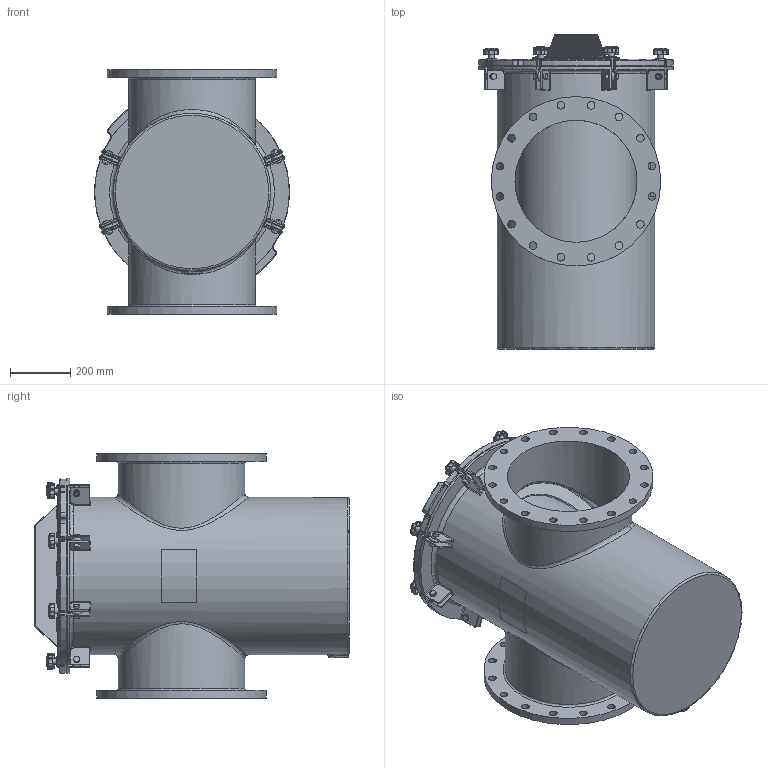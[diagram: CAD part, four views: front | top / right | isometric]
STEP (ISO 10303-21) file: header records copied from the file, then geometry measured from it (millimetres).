
FILE_DESCRIPTION(/* description */ ('STRAINER BODY'),/* implementation_level */ '2;1');
FILE_NAME(/* name */ '\\chntshnas1\IP_PUMPS\NeptuneBenson\Project Execution\WIP\Ready for delivery - Do not Disturb -Updated with metric Flange\Workspace\FG Straight Strainer\150NBFG16X16-MM.stp',/* time_stamp */ '2016-10-18T19:45:13+05:00',/* author */ ('20076253'),/* organization */ (''),/* preprocessor_version */ 'ST-DEVELOPER v16.1',/* originating_system */ 'Autodesk Inventor 2016',/* authorisation */ '');
FILE_SCHEMA (('AUTOMOTIVE_DESIGN { 1 0 10303 214 3 1 1 }'));
Length unit declared in the file: inch
Products named in the file (24): NBFGBODY16X16MM; 150NBCVR22R2; 150NBGSK20R1; Perforated Basket 20in; Bride (Ring) 20in; Baffle 20in; Handle 20in; Bottom Strainer 20in; NBBSK16T316; BRACESTRCVR20_Welds; BRACE (BASE) FOR 20 BODY; BRACE (PROJ) FOR 20 BODY; Bumper; BRACESTRCVR20; Nut- 1_2  UNC; Bolt-1_2 x 1 1_2  UNC; EyeBolt; Washer; Knob M10; Securing Assembly For FG  with Brace; Securing Assembly For FG without Brace; Label for 20.625 inch (Right); Label for 20.625 inch (Left); Guardian FG H&L Strainer (Metric)
Assembly tree (39 placements, depth 3):
  Guardian FG H&L Strainer (Metric)
    NBFGBODY16X16MM
    150NBCVR22R2
    150NBGSK20R1
    NBBSK16T316
      Perforated Basket 20in
      Bride (Ring) 20in
      Baffle 20in
      Handle 20in
      Bottom Strainer 20in
    BRACESTRCVR20
      BRACESTRCVR20_Welds
      BRACE (BASE) FOR 20 BODY
      BRACE (PROJ) FOR 20 BODY
      Bumper  x6
    Securing Assembly For FG  with Brace  x2
      Nut- 1_2  UNC
      Bolt-1_2 x 1 1_2  UNC
      EyeBolt
      Washer
      Knob M10
    Securing Assembly For FG without Brace  x6
      Nut- 1_2  UNC
      Bolt-1_2 x 1 1_2  UNC
      EyeBolt
      Washer
      Knob M10
    Label for 20.625 inch (Right)
    Label for 20.625 inch (Left)
Bounding box: 647.7 x 1047.75 x 812.8 mm (x, y, z)
Volume: 34105597.7 mm3; surface area: 8425325.2 mm2
Topology: 68 solids, 68 shells, 1855 faces, 4250 edges, 2520 vertices
Faces by surface type: cylinder 691, plane 515, cone 184, torus 170, sphere 158, bspline 137
Full cylindrical faces by diameter (mm): 3.175 x11, 6.35 x1, 8.382 x8, 9.525 x16, 10.592 x8, 12.7 x8, 15.875 x16, 19 x16, 19.05 x8, 22.809 x1, 25.4 x32, 31.75 x8, 403.225 x2, 406.4 x3, 408.94 x1, 422.275 x2, 508 x2, 511.175 x1, 514.35 x1, 523.875 x1, 563.88 x2, 577.85 x1, 584.2 x1
Entity records: 36167 total; most frequent: CARTESIAN_POINT 12118, DIRECTION 4943, ORIENTED_EDGE 4554, EDGE_CURVE 2277, AXIS2_PLACEMENT_3D 2014, VERTEX_POINT 1438, EDGE_LOOP 1251, ADVANCED_FACE 1005
